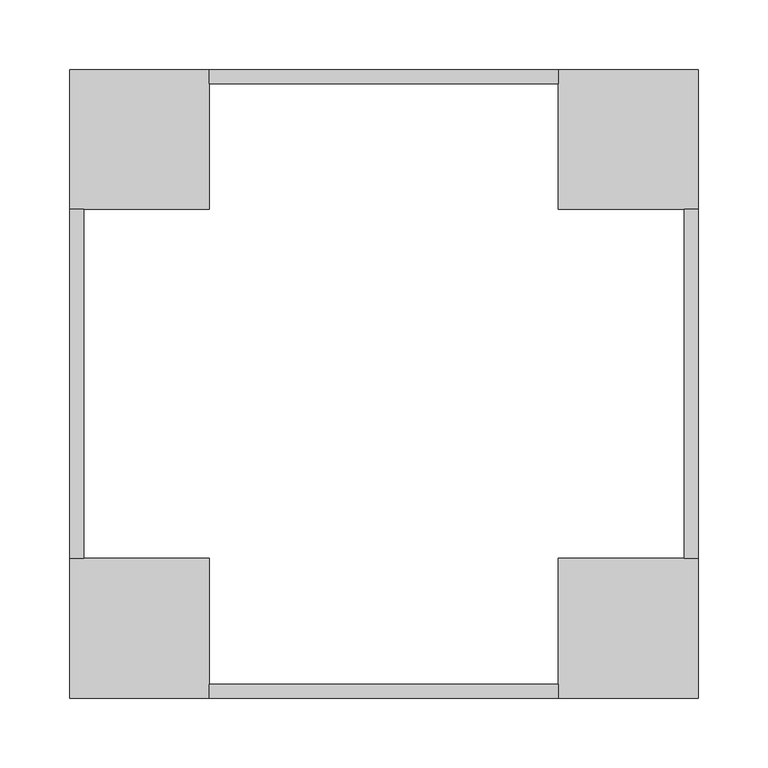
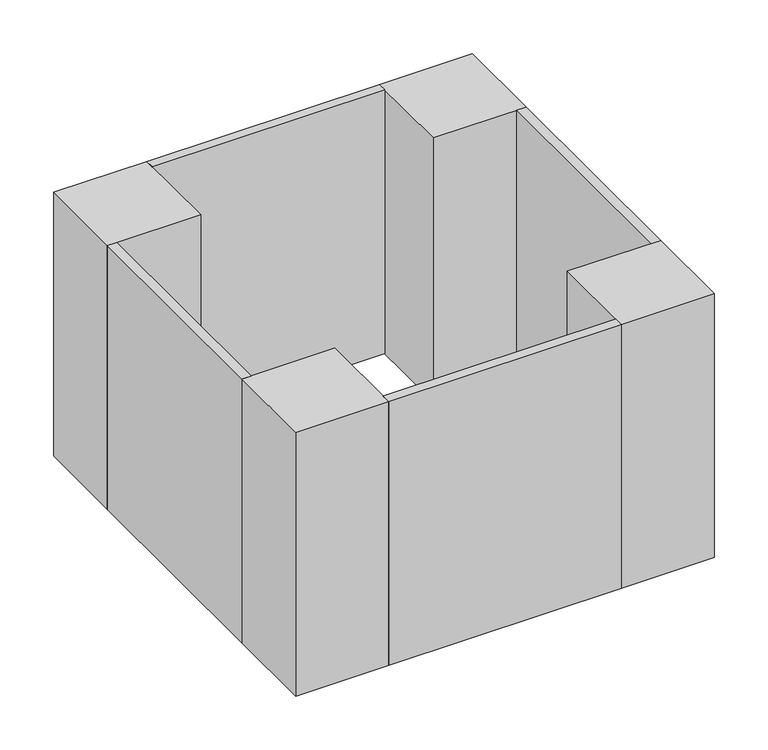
"""IFC4 building model written with IfcOpenShell, lengths in millimetres: proxy geometry, ▲EE_Основание : заводское_300_мм."""

from ifc_helpers import new_model, si_unit, origin, origin_with_axes, place, context, project, spatial, polyline, outline, extrude, source, transform, mapped, element, save


def electrical_equipment_06911bee(model_context):
    return source(origin(), model_context, "Body", "SweptSolid", [
        extrude(outline(polyline([(125.0, 0.0), (125.0, -10.0), (-125.0, -10.0), (-125.0, 0.0), (125.0, 0.0)])), origin_with_axes(), (0.0, 0.0, 1.0), 300.0),
        extrude(outline(polyline([(-215.0, -100.0), (-215.0, -350.0), (-225.0, -350.0), (-225.0, -100.0), (-215.0, -100.0)])), origin_with_axes(), (0.0, 0.0, 1.0), 300.0),
        extrude(outline(polyline([(125.0, -450.0), (-125.0, -450.0), (-125.0, -440.0), (125.0, -440.0), (125.0, -450.0)])), origin_with_axes(), (0.0, 0.0, 1.0), 300.0),
        extrude(outline(polyline([(215.0, -350.0), (215.0, -100.0), (225.0, -100.0), (225.0, -350.0), (215.0, -350.0)])), origin_with_axes(), (0.0, 0.0, 1.0), 300.0),
        extrude(outline(polyline([(-125.0, 0.0), (-125.0, -100.0), (-225.0, -100.0), (-225.0, 0.0), (-125.0, 0.0)])), origin_with_axes(), (0.0, 0.0, 1.0), 300.0),
        extrude(outline(polyline([(125.0, 0.0), (225.0, 0.0), (225.0, -100.0), (125.0, -100.0), (125.0, 0.0)])), origin_with_axes(), (0.0, 0.0, 1.0), 300.0),
        extrude(outline(polyline([(-125.0, -350.0), (-125.0, -450.0), (-225.0, -450.0), (-225.0, -350.0), (-125.0, -350.0)])), origin_with_axes(), (0.0, 0.0, 1.0), 300.0),
        extrude(outline(polyline([(125.0, -450.0), (125.0, -350.0), (225.0, -350.0), (225.0, -450.0), (125.0, -450.0)])), origin_with_axes(), (0.0, 0.0, 1.0), 300.0),
    ])


if __name__ == "__main__":
    model = new_model("IFC4")
    model_context = context("Model", 3, world=origin())
    ifc_project = project(units=[si_unit("LENGTHUNIT", "METRE", prefix="MILLI")], contexts=[model_context])
    site = spatial("IfcSite", under=ifc_project)
    building = spatial("IfcBuilding", under=site)
    placement = place(None, origin())
    electrical_equipment_shape = electrical_equipment_06911bee(model_context)
    element("IfcBuildingElementProxy", 1, Name="▲EE_Основание : заводское_300_мм", ObjectType="▲EE_Основание : заводское_300_мм", at=placement, inside=building, context=model_context, shape_type="MappedRepresentation", body=[
        mapped(electrical_equipment_shape, transform((0.0, 0.0, 0.0), x_axis=(1.0, 0.0, 0.0), y_axis=(0.0, 1.0, 0.0), z_axis=(0.0, 0.0, 1.0))),
    ])
    save(model, "model.ifc")
